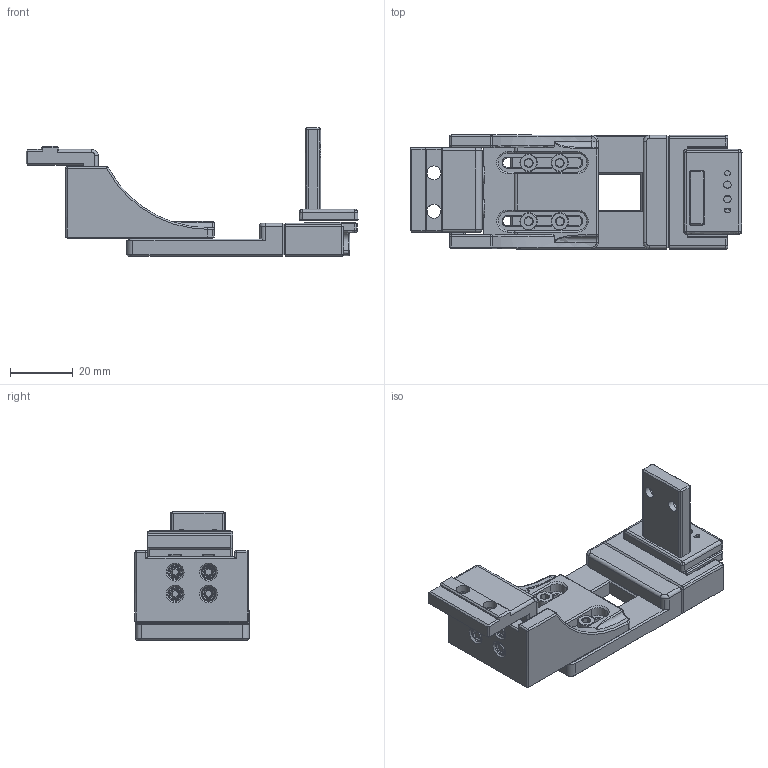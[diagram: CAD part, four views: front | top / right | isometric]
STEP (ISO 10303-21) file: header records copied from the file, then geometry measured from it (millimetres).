
FILE_DESCRIPTION(('HOOPS Exchange Step'),'2;1');
FILE_NAME('/private/var/mobile/Containers/Data/Application/6C526E74-56D7-44F3-81CE-EDB8BE655BF5/tmp/export/temp_export','2021-10-01T12:25:55-05:00',('mobile'),('Shapr3D Limited'),'HOOPS Exchange 2021.1','Shapr3D','Authorized');
FILE_SCHEMA( ('AP203_CONFIGURATION_CONTROLLED_3D_DESIGN_OF_MECHANICAL_PARTS_AND_ASSEMBLIES_MIM_LF') );
Length unit declared in the file: millimetre
Products named in the file (3): 0; /private/var/mobile/Containers/Data/Application/6C526E74-56D7-44F3-81CE-EDB8BE655BF5/tmp/7A6E1562-378B-4CEB-B278-6BF83D919FF8.tmp
Assembly tree (2 placements, depth 3):
  /private/var/mobile/Containers/Data/Application/6C526E74-56D7-44F3-81CE-EDB8BE655BF5/tmp/7A6E1562-378B-4CEB-B278-6BF83D919FF8.tmp
    0
      0
Bounding box: 105.91 x 36.37 x 40.99 mm (x, y, z)
Volume: 25663.7 mm3; surface area: 26208.1 mm2
Topology: 25 solids, 26 shells, 2204 faces, 5954 edges, 3847 vertices
Faces by surface type: bspline 838, cylinder 615, plane 459, cone 237, torus 29, sphere 26
Full cylindrical faces by diameter (mm): 1.2 x2, 1.6 x2, 2.385 x2, 2.9 x10, 3 x10, 3.4 x2, 3.6 x2, 4.2 x10, 4.25 x10, 4.4 x2, 4.6 x10, 4.7 x10, 5.5 x10, 6 x3, 8.4 x2
Entity records: 128615 total; most frequent: CARTESIAN_POINT 80359, ORIENTED_EDGE 11863, DIRECTION 7144, EDGE_CURVE 5931, VERTEX_POINT 3847, B_SPLINE_CURVE_WITH_KNOTS 2908, AXIS2_PLACEMENT_3D 2805, EDGE_LOOP 2348
